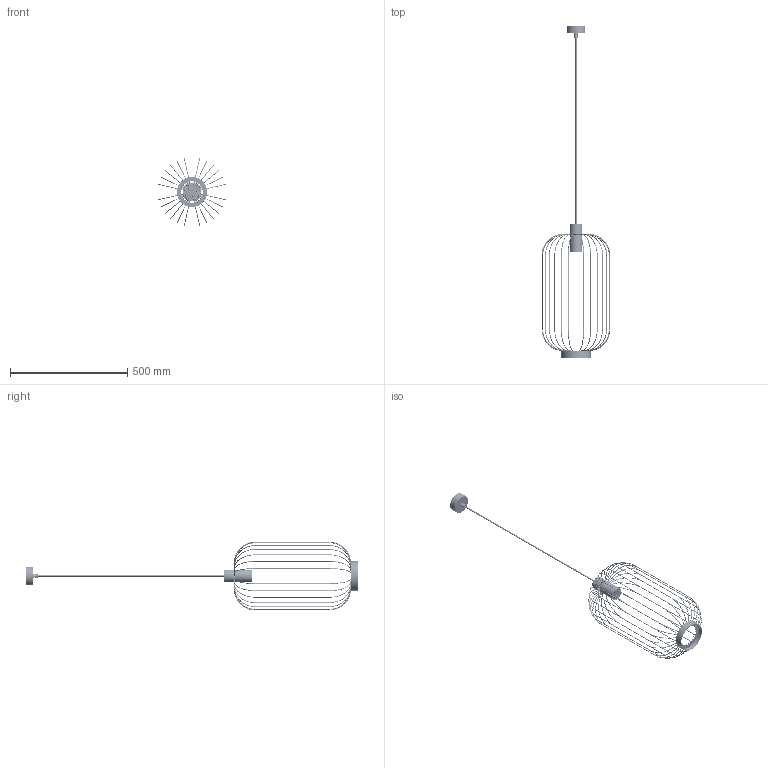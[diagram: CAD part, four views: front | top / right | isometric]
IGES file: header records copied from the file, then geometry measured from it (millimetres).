
Start section: SolidWorks IGES file using NURBS representation for surfaces
Global section: file name: Z:\Modele 3D_WWW\_KOLEKCJE_WWW\CAGE-6844\CAGE-6844.IGS; native system: SolidWorks 2021; preprocessor: SolidWorks 2021; author: gabriela.tworek; date: 210917.144206; units: millimetre
Bounding box: 293.3 x 1415.93 x 293.3 mm (x, y, z)
Surface area: 328279.3 mm2 (no closed solid volume)
Topology: 0 solids, 0 shells, 2525 faces, 34598 edges, 34594 vertices
Faces by surface type: bspline 2525
